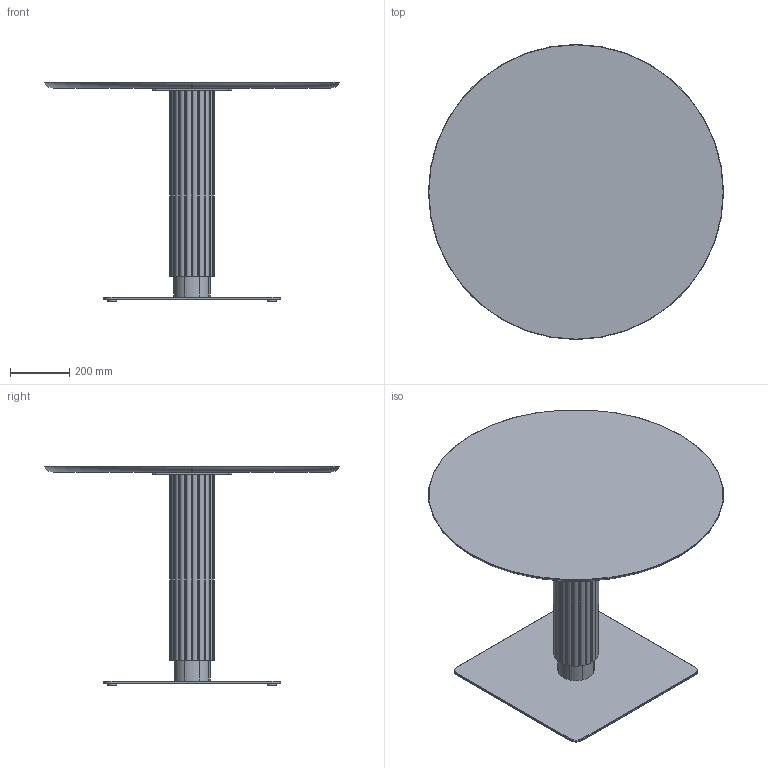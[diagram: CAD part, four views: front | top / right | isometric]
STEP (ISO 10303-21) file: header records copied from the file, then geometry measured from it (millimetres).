
FILE_DESCRIPTION( ('This file contains a STEP AP42 implementation' ,'as created by ZW3D STEP Interface translator.') ,'2;1' );
FILE_NAME( 'Godron - B_Carré - F1 - M3 - 900 x 900 x 750.stp' ,'24 912. 94318', (''), ('ZWCAD Software Co.'), 'Version 1.0', 'ZW3D to STEP translator', '' );
FILE_SCHEMA(('AUTOMOTIVE_DESIGN { 1 0 10303 214 1 1 1 1 }'));
Length unit declared in the file: millimetre
Products named in the file (16): 0; PIED BISTROT PARAMETRIQUE_; CROIX ACIER 370 V.02_; CRX-X370-02_; SOCLE ACIER L 600x600 V.02_; SCL-R600-02_; PLA-R30A-01_; PLA-R30A-01; COLONNE ACIER Ø48.5 V.02_; TUB-D048-02_; PLA-R48A-01_; Colonne GODRON H700_; WUERTH 0276063020 Euro-screw 6.3x2 Verzinkt_; PLATEAU BISTROT PARAMETRIQUE_; insert_m6_13_; insert_m6_13
Assembly tree (23 placements, depth 3):
  0
  PIED BISTROT PARAMETRIQUE_
    CROIX ACIER 370 V.02_
      CRX-X370-02_
    SOCLE ACIER L 600x600 V.02_
      SCL-R600-02_
      PLA-R30A-01_
      PLA-R30A-01  x3
    COLONNE ACIER Ø48.5 V.02_
      TUB-D048-02_
      PLA-R48A-01_  x2
    Colonne GODRON H700_
    WUERTH 0276063020 Euro-screw 6.3x2 Verzinkt_
    PLATEAU BISTROT PARAMETRIQUE_
      insert_m6_13_  x2
      insert_m6_13  x6
Bounding box: 1000 x 1000 x 744 mm (x, y, z)
Volume: 29163202.1 mm3; surface area: 3747451.7 mm2
Topology: 27 solids, 27 shells, 669 faces, 1662 edges, 1062 vertices
Faces by surface type: plane 298, cylinder 196, bspline 121, cone 49, torus 5
Full cylindrical faces by diameter (mm): 4.88 x1, 6 x8, 6.3 x1, 8 x45, 12 x2, 14 x2, 30 x4, 44.5 x3, 48.5 x1
Entity records: 17862 total; most frequent: CARTESIAN_POINT 4547, ORIENTED_EDGE 2472, DIRECTION 2457, EDGE_CURVE 1236, AXIS2_PLACEMENT_3D 870, VERTEX_POINT 796, VECTOR 717, LINE 717
